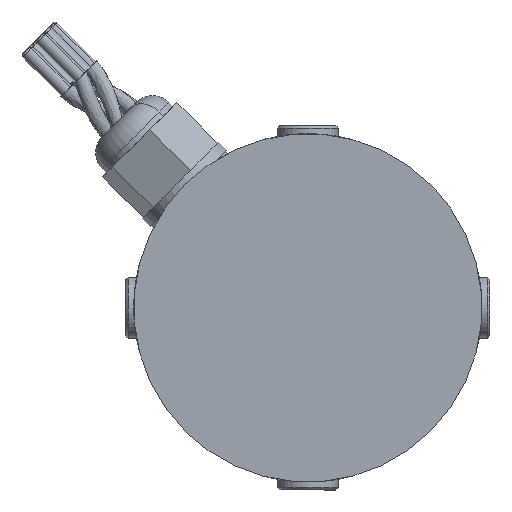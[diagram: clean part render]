
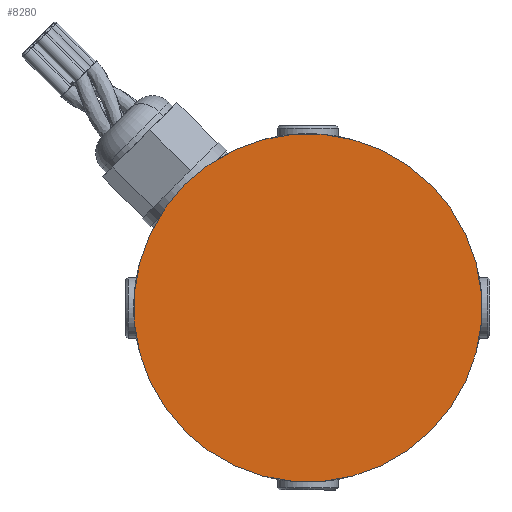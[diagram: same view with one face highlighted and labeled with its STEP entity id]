
A CAD part, left-side view. The second image highlights one B-rep face of the part: STEP entity #8280.
In plain terms, the highlighted planar face has unit normal (-1, 0, 0).
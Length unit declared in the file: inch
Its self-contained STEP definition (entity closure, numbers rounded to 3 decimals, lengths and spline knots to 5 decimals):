
#675 = ORIENTED_EDGE ( 'NONE', *, *, #6034, .F. ) ;
#803 = AXIS2_PLACEMENT_3D ( 'NONE', #7013, #3892, #5430 ) ;
#961 = DIRECTION ( 'NONE',  ( 1., 0., 0. ) ) ;
#1173 = DIRECTION ( 'NONE',  ( 0., -0.707, 0.707 ) ) ;
#1401 = VERTEX_POINT ( 'NONE', #9690 ) ;
#1662 = AXIS2_PLACEMENT_3D ( 'NONE', #9464, #961, #3243 ) ;
#2014 = CARTESIAN_POINT ( 'NONE',  ( -0.01607, 2.80406, 3.76484 ) ) ;
#2938 = DIRECTION ( 'NONE',  ( 1., 0., 0. ) ) ;
#3041 = CIRCLE ( 'NONE', #8582, 1.51594 ) ;
#3243 = DIRECTION ( 'NONE',  ( 0., -0.707, 0.707 ) ) ;
#3892 = DIRECTION ( 'NONE',  ( 1., 0., 0. ) ) ;
#4058 = PLANE ( 'NONE',  #1662 ) ;
#4285 = FACE_OUTER_BOUND ( 'NONE', #6947, .T. ) ;
#5430 = DIRECTION ( 'NONE',  ( 0., -0.707, 0.707 ) ) ;
#5994 = CIRCLE ( 'NONE', #803, 1.51594 ) ;
#6034 = EDGE_CURVE ( 'NONE', #1401, #6595, #5994, .T. ) ;
#6055 = ORIENTED_EDGE ( 'NONE', *, *, #9260, .F. ) ;
#6595 = VERTEX_POINT ( 'NONE', #7388 ) ;
#6947 = EDGE_LOOP ( 'NONE', ( #6055, #675 ) ) ;
#7013 = CARTESIAN_POINT ( 'NONE',  ( -0.01607, 2.80406, 3.76484 ) ) ;
#7388 = CARTESIAN_POINT ( 'NONE',  ( -0.01607, 3.876, 2.6929 ) ) ;
#8280 = ADVANCED_FACE ( 'NONE', ( #4285 ), #4058, .F. ) ;
#8582 = AXIS2_PLACEMENT_3D ( 'NONE', #2014, #2938, #1173 ) ;
#9260 = EDGE_CURVE ( 'NONE', #6595, #1401, #3041, .T. ) ;
#9464 = CARTESIAN_POINT ( 'NONE',  ( -0.01607, 2.80406, 3.76484 ) ) ;
#9690 = CARTESIAN_POINT ( 'NONE',  ( -0.01607, 1.73213, 4.83677 ) ) ;
